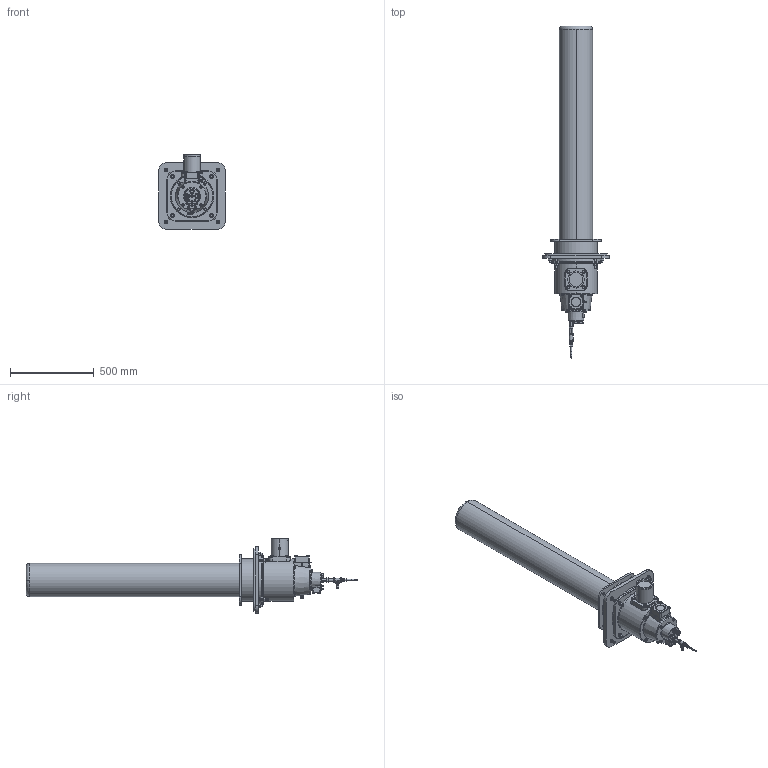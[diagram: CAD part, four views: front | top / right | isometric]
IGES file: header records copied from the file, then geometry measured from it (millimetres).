
Global section: file name: No Iges File Name specified; native system: AutoDesk Inventor R12.0; preprocessor: AutoDesk Inventor Iges Exporter R12.0; date: 20110916.134458; units: millimetre
Bounding box: 400 x 1985.68 x 448 mm (x, y, z)
Volume: 64329125.4 mm3; surface area: 2082625.3 mm2
Topology: 36 solids, 36 shells, 2388 faces, 5732 edges, 3541 vertices
Faces by surface type: plane 1010, cylinder 444, cone 394, bspline 312, revolution 187, torus 41
Full cylindrical faces by diameter (mm): 14.8 x16, 21.1 x8
